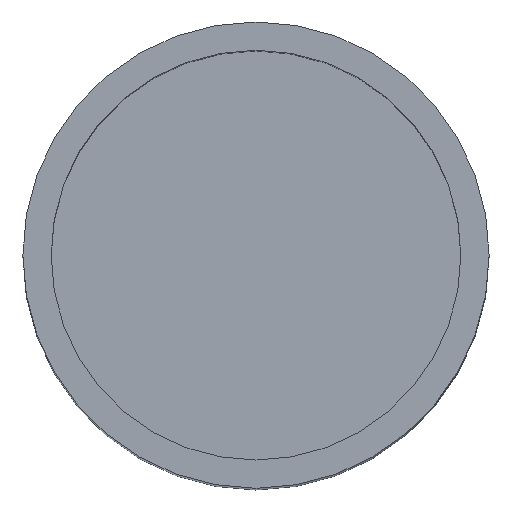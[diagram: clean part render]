
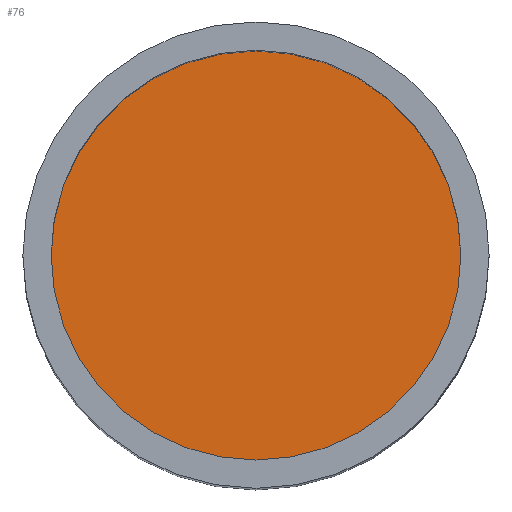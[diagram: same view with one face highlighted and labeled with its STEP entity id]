
A CAD part, top view. The second image highlights one B-rep face of the part: STEP entity #76.
In plain terms, the highlighted planar face has unit normal (0, 0, 1).
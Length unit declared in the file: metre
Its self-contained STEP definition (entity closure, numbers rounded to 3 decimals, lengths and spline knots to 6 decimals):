
#13=PLANE('',#100);
#22=ORIENTED_EDGE('',*,*,#31,.T.);
#31=EDGE_CURVE('',#37,#37,#43,.T.);
#37=VERTEX_POINT('',#144);
#43=CIRCLE('',#98,0.0145);
#52=EDGE_LOOP('',(#22));
#64=FACE_BOUND('',#52,.T.);
#76=ADVANCED_FACE('',(#64),#13,.T.);
#98=AXIS2_PLACEMENT_3D('',#143,#118,#119);
#100=AXIS2_PLACEMENT_3D('',#146,#122,#123);
#118=DIRECTION('',(0.,0.,1.));
#119=DIRECTION('',(1.,0.,0.));
#122=DIRECTION('',(0.,0.,1.));
#123=DIRECTION('',(1.,0.,0.));
#143=CARTESIAN_POINT('',(0.,0.,0.01));
#144=CARTESIAN_POINT('',(0.0145,0.,0.01));
#146=CARTESIAN_POINT('',(0.,0.,0.01));
